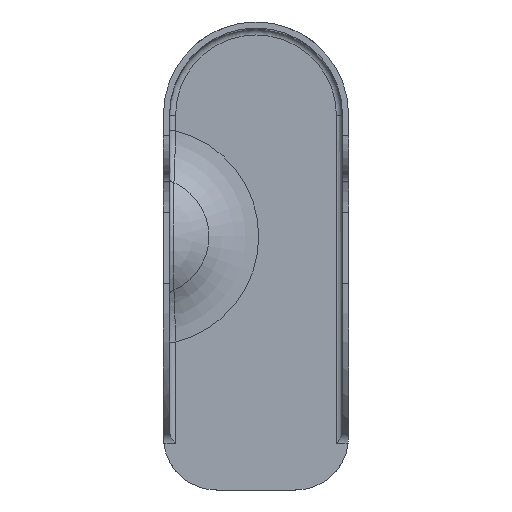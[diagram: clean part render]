
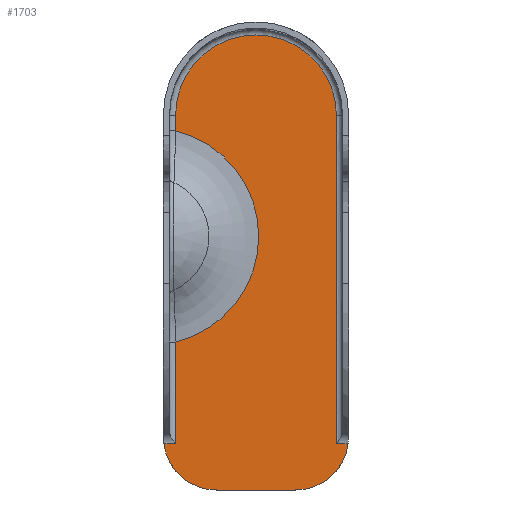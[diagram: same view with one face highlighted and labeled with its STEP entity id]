
A CAD part, top view. The second image highlights one B-rep face of the part: STEP entity #1703.
In plain terms, the highlighted planar face has unit normal (0, 0, 1).
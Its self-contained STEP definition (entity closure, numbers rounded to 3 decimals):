
#75=PLANE('',#1803);
#88=LINE('',#2564,#164);
#91=LINE('',#2660,#167);
#93=LINE('',#2676,#169);
#94=LINE('',#2693,#170);
#95=LINE('',#2695,#171);
#96=LINE('',#2699,#172);
#164=VECTOR('',#1925,10.);
#167=VECTOR('',#1946,10.);
#169=VECTOR('',#1958,10.);
#170=VECTOR('',#1969,10.);
#171=VECTOR('',#1970,10.);
#172=VECTOR('',#1973,10.);
#310=FACE_OUTER_BOUND('',#383,.T.);
#383=EDGE_LOOP('',(#1211,#1212,#1213,#1214,#1215,#1216,#1217,#1218,#1219,
#1220));
#516=CIRCLE('',#1797,26.6);
#518=CIRCLE('',#1802,35.906);
#519=CIRCLE('',#1804,17.5);
#520=CIRCLE('',#1805,17.5);
#703=VERTEX_POINT('',#2551);
#705=VERTEX_POINT('',#2563);
#712=VERTEX_POINT('',#2642);
#714=VERTEX_POINT('',#2656);
#716=VERTEX_POINT('',#2662);
#720=VERTEX_POINT('',#2675);
#721=VERTEX_POINT('',#2692);
#722=VERTEX_POINT('',#2694);
#723=VERTEX_POINT('',#2696);
#724=VERTEX_POINT('',#2698);
#903=EDGE_CURVE('',#703,#705,#88,.T.);
#918=EDGE_CURVE('',#712,#714,#91,.T.);
#921=EDGE_CURVE('',#714,#716,#516,.T.);
#924=EDGE_CURVE('',#716,#720,#93,.T.);
#927=EDGE_CURVE('',#705,#712,#518,.T.);
#928=EDGE_CURVE('',#721,#720,#94,.T.);
#929=EDGE_CURVE('',#703,#722,#95,.T.);
#930=EDGE_CURVE('',#722,#723,#519,.T.);
#931=EDGE_CURVE('',#723,#724,#96,.T.);
#932=EDGE_CURVE('',#724,#721,#520,.T.);
#1211=ORIENTED_EDGE('',*,*,#928,.T.);
#1212=ORIENTED_EDGE('',*,*,#924,.F.);
#1213=ORIENTED_EDGE('',*,*,#921,.F.);
#1214=ORIENTED_EDGE('',*,*,#918,.F.);
#1215=ORIENTED_EDGE('',*,*,#927,.F.);
#1216=ORIENTED_EDGE('',*,*,#903,.F.);
#1217=ORIENTED_EDGE('',*,*,#929,.T.);
#1218=ORIENTED_EDGE('',*,*,#930,.T.);
#1219=ORIENTED_EDGE('',*,*,#931,.T.);
#1220=ORIENTED_EDGE('',*,*,#932,.T.);
#1703=ADVANCED_FACE('',(#310),#75,.T.);
#1797=AXIS2_PLACEMENT_3D('',#2666,#1953,#1954);
#1802=AXIS2_PLACEMENT_3D('',#2690,#1965,#1966);
#1803=AXIS2_PLACEMENT_3D('',#2691,#1967,#1968);
#1804=AXIS2_PLACEMENT_3D('',#2697,#1971,#1972);
#1805=AXIS2_PLACEMENT_3D('',#2700,#1974,#1975);
#1925=DIRECTION('',(0.,1.,0.));
#1946=DIRECTION('',(0.,1.,0.));
#1953=DIRECTION('center_axis',(0.,0.,-1.));
#1954=DIRECTION('ref_axis',(0.,1.,0.));
#1958=DIRECTION('',(0.,-1.,0.));
#1965=DIRECTION('center_axis',(0.,0.,1.));
#1966=DIRECTION('ref_axis',(1.,0.,0.));
#1967=DIRECTION('center_axis',(0.,0.,1.));
#1968=DIRECTION('ref_axis',(1.,0.,0.));
#1969=DIRECTION('',(-1.,0.,0.));
#1970=DIRECTION('',(-1.,0.,0.));
#1971=DIRECTION('center_axis',(0.,0.,1.));
#1972=DIRECTION('ref_axis',(1.,0.,0.));
#1973=DIRECTION('',(1.,0.,0.));
#1974=DIRECTION('center_axis',(0.,0.,1.));
#1975=DIRECTION('ref_axis',(1.,0.,0.));
#2551=CARTESIAN_POINT('',(-26.6,-108.491,2.));
#2563=CARTESIAN_POINT('',(-26.6,-74.91,2.));
#2564=CARTESIAN_POINT('',(-26.6,-76.973,2.));
#2642=CARTESIAN_POINT('',(-26.6,-5.09,2.));
#2656=CARTESIAN_POINT('',(-26.6,0.,2.));
#2660=CARTESIAN_POINT('',(-26.6,-76.973,2.));
#2662=CARTESIAN_POINT('',(26.6,0.,2.));
#2666=CARTESIAN_POINT('Origin',(0.,0.,2.));
#2675=CARTESIAN_POINT('',(26.6,-108.491,2.));
#2676=CARTESIAN_POINT('',(26.6,-29.308,2.));
#2690=CARTESIAN_POINT('Origin',(-35.,-40.,2.));
#2691=CARTESIAN_POINT('Origin',(0.,-47.615,2.));
#2692=CARTESIAN_POINT('',(30.466,-108.491,2.));
#2693=CARTESIAN_POINT('',(14.3,-108.491,2.));
#2694=CARTESIAN_POINT('',(-30.466,-108.491,2.));
#2695=CARTESIAN_POINT('',(-15.3,-108.491,2.));
#2696=CARTESIAN_POINT('',(-13.1,-123.83,2.));
#2697=CARTESIAN_POINT('Origin',(-13.1,-106.33,2.));
#2698=CARTESIAN_POINT('',(13.1,-123.83,2.));
#2699=CARTESIAN_POINT('',(-13.1,-123.83,2.));
#2700=CARTESIAN_POINT('Origin',(13.1,-106.33,2.));
